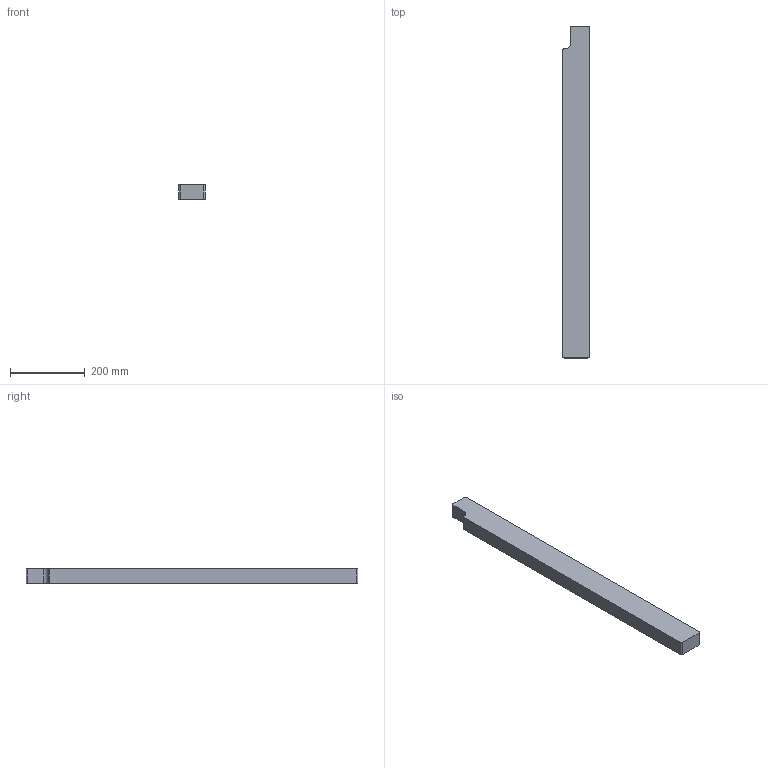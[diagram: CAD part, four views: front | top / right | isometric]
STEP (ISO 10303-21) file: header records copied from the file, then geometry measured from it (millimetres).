
FILE_DESCRIPTION(/* description */ (''),/* implementation_level */ '2;1');
FILE_NAME(/* name */ 'Pos110-Hout D= 40-Hout-3st',/* time_stamp */ '2024-08-06T13:37:43+02:00',/* author */ (''),/* organization */ (''),/* preprocessor_version */ 'ST-DEVELOPER v16.5',/* originating_system */ 'HiCAD 2024 2901.2 Build 361',/* authorisation */ '');
FILE_SCHEMA (('AUTOMOTIVE_DESIGN { 1 0 10303 214 1 1 1 1 }'));
Length unit declared in the file: millimetre
Products named in the file (2): Pos110-Hout D= 40-Hout-3st; Pos0-Antislip-Rubber-0st
Assembly tree (1 placements, depth 2):
  Pos110-Hout D= 40-Hout-3st
    Pos0-Antislip-Rubber-0st
Bounding box: 70 x 890 x 40 mm (x, y, z)
Volume: 2444940.6 mm3; surface area: 198574.9 mm2
Topology: 1 solids, 1 shells, 14 faces, 36 edges, 24 vertices
Faces by surface type: plane 8, cylinder 6
Entity records: 836 total; most frequent: DIRECTION 80, CARTESIAN_POINT 76, PRESENTATION_STYLE_ASSIGNMENT 73, COLOUR_RGB 73, DRAUGHTING_PRE_DEFINED_CURVE_FONT 72, CURVE_STYLE 72, OVER_RIDING_STYLED_ITEM 72, ORIENTED_EDGE 72
